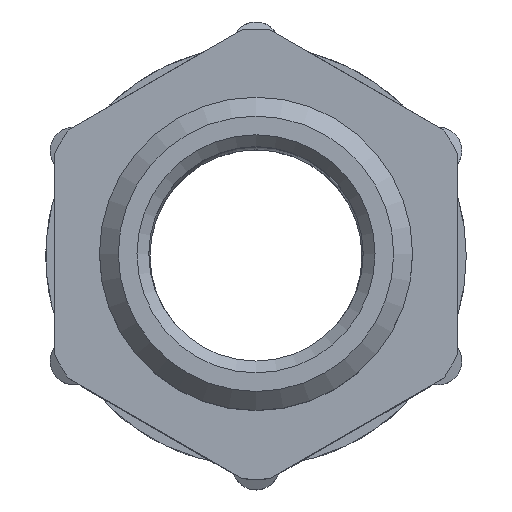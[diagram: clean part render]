
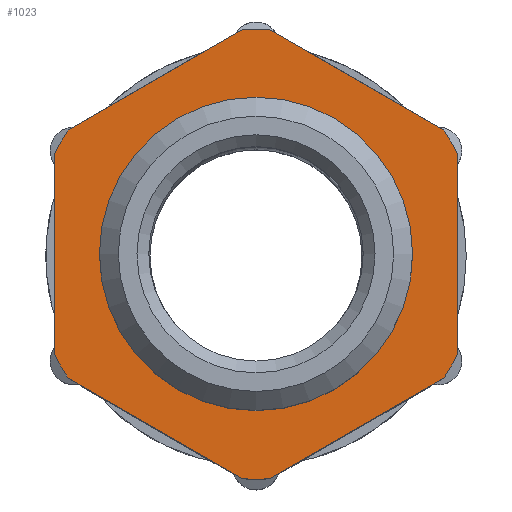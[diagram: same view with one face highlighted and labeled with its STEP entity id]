
A CAD part, top view. The second image highlights one B-rep face of the part: STEP entity #1023.
In plain terms, the highlighted planar face has unit normal (0, 0, 1).
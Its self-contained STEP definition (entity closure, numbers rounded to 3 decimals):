
#48 = EDGE_CURVE ( 'NONE', #171, #171, #2255, .T. ) ;
#171 = VERTEX_POINT ( 'NONE', #3187 ) ;
#174 = CARTESIAN_POINT ( 'NONE',  ( 72.623, 59.517, 83.865 ) ) ;
#189 = ORIENTED_EDGE ( 'NONE', *, *, #3134, .F. ) ;
#204 = ORIENTED_EDGE ( 'NONE', *, *, #4420, .F. ) ;
#280 = CARTESIAN_POINT ( 'NONE',  ( 55.623, 51.032, 83.865 ) ) ;
#355 = VERTEX_POINT ( 'NONE', #3741 ) ;
#370 = CIRCLE ( 'NONE', #2654, 19. ) ;
#377 = CARTESIAN_POINT ( 'NONE',  ( 72.623, 42.547, 83.865 ) ) ;
#384 = DIRECTION ( 'NONE',  ( -0.866, -0.5, 0. ) ) ;
#419 = AXIS2_PLACEMENT_3D ( 'NONE', #4497, #3030, #1965 ) ;
#421 = VECTOR ( 'NONE', #2702, 1000. ) ;
#453 = CARTESIAN_POINT ( 'NONE',  ( 56.775, 69.997, 83.865 ) ) ;
#494 = DIRECTION ( 'NONE',  ( 1., 0., 0. ) ) ;
#506 = AXIS2_PLACEMENT_3D ( 'NONE', #4580, #4527, #2343 ) ;
#545 = DIRECTION ( 'NONE',  ( 0., 0., 1. ) ) ;
#599 = PLANE ( 'NONE',  #1833 ) ;
#600 = ORIENTED_EDGE ( 'NONE', *, *, #48, .F. ) ;
#624 = ORIENTED_EDGE ( 'NONE', *, *, #3411, .F. ) ;
#670 = CARTESIAN_POINT ( 'NONE',  ( 38.623, 59.517, 83.865 ) ) ;
#681 = DIRECTION ( 'NONE',  ( 0.866, -0.5, 0. ) ) ;
#717 = DIRECTION ( 'NONE',  ( 1., 0., 0. ) ) ;
#766 = EDGE_CURVE ( 'NONE', #3561, #4451, #370, .T. ) ;
#877 = DIRECTION ( 'NONE',  ( 0., 0., -1. ) ) ;
#981 = ORIENTED_EDGE ( 'NONE', *, *, #4453, .F. ) ;
#1023 = ADVANCED_FACE ( 'NONE', ( #4716, #1219 ), #599, .F. ) ;
#1034 = ORIENTED_EDGE ( 'NONE', *, *, #766, .F. ) ;
#1036 = VERTEX_POINT ( 'NONE', #3556 ) ;
#1148 = CARTESIAN_POINT ( 'NONE',  ( 38.623, 42.547, 83.865 ) ) ;
#1174 = CARTESIAN_POINT ( 'NONE',  ( 55.623, 51.032, 83.865 ) ) ;
#1191 = CARTESIAN_POINT ( 'NONE',  ( 71.472, 61.512, 83.865 ) ) ;
#1215 = AXIS2_PLACEMENT_3D ( 'NONE', #4411, #3608, #2544 ) ;
#1219 = FACE_BOUND ( 'NONE', #3453, .T. ) ;
#1294 = CARTESIAN_POINT ( 'NONE',  ( 71.472, 40.552, 83.865 ) ) ;
#1335 = CARTESIAN_POINT ( 'NONE',  ( 38.623, 41.217, 83.865 ) ) ;
#1417 = CARTESIAN_POINT ( 'NONE',  ( 72.623, 60.847, 83.865 ) ) ;
#1424 = LINE ( 'NONE', #3964, #3767 ) ;
#1540 = EDGE_CURVE ( 'NONE', #4581, #4526, #3866, .T. ) ;
#1542 = DIRECTION ( 'NONE',  ( 0., 0., -1. ) ) ;
#1550 = EDGE_CURVE ( 'NONE', #4526, #2028, #1424, .T. ) ;
#1563 = CARTESIAN_POINT ( 'NONE',  ( 55.623, 51.032, 83.865 ) ) ;
#1572 = ORIENTED_EDGE ( 'NONE', *, *, #3924, .F. ) ;
#1595 = VERTEX_POINT ( 'NONE', #377 ) ;
#1719 = ORIENTED_EDGE ( 'NONE', *, *, #1540, .F. ) ;
#1733 = AXIS2_PLACEMENT_3D ( 'NONE', #2375, #545, #3869 ) ;
#1804 = VECTOR ( 'NONE', #2473, 1000. ) ;
#1833 = AXIS2_PLACEMENT_3D ( 'NONE', #280, #3605, #2880 ) ;
#1855 = DIRECTION ( 'NONE',  ( 0., 0., -1. ) ) ;
#1923 = EDGE_LOOP ( 'NONE', ( #981, #2048, #2497, #3560, #1719, #1572, #2272, #624, #204, #189, #1034, #2115 ) ) ;
#1965 = DIRECTION ( 'NONE',  ( 1., 0., 0. ) ) ;
#1980 = CARTESIAN_POINT ( 'NONE',  ( 54.472, 32.067, 83.865 ) ) ;
#2024 = CARTESIAN_POINT ( 'NONE',  ( 54.472, 69.997, 83.865 ) ) ;
#2028 = VERTEX_POINT ( 'NONE', #1191 ) ;
#2048 = ORIENTED_EDGE ( 'NONE', *, *, #4760, .F. ) ;
#2115 = ORIENTED_EDGE ( 'NONE', *, *, #4384, .F. ) ;
#2188 = CARTESIAN_POINT ( 'NONE',  ( 55.623, 51.032, 83.865 ) ) ;
#2206 = VECTOR ( 'NONE', #2761, 1000. ) ;
#2255 = CIRCLE ( 'NONE', #1733, 11.5 ) ;
#2272 = ORIENTED_EDGE ( 'NONE', *, *, #2549, .F. ) ;
#2343 = DIRECTION ( 'NONE',  ( 1., 0., 0. ) ) ;
#2375 = CARTESIAN_POINT ( 'NONE',  ( 55.623, 51.032, 83.865 ) ) ;
#2379 = VERTEX_POINT ( 'NONE', #670 ) ;
#2473 = DIRECTION ( 'NONE',  ( 0., -1., 0. ) ) ;
#2488 = CIRCLE ( 'NONE', #3311, 19. ) ;
#2497 = ORIENTED_EDGE ( 'NONE', *, *, #3260, .F. ) ;
#2544 = DIRECTION ( 'NONE',  ( 1., 0., 0. ) ) ;
#2549 = EDGE_CURVE ( 'NONE', #2379, #355, #3464, .T. ) ;
#2654 = AXIS2_PLACEMENT_3D ( 'NONE', #2188, #1855, #717 ) ;
#2676 = VERTEX_POINT ( 'NONE', #1294 ) ;
#2702 = DIRECTION ( 'NONE',  ( -0.866, 0.5, 0. ) ) ;
#2761 = DIRECTION ( 'NONE',  ( 0.866, 0.5, 0. ) ) ;
#2781 = LINE ( 'NONE', #1417, #1804 ) ;
#2799 = CARTESIAN_POINT ( 'NONE',  ( 38.623, 60.847, 83.865 ) ) ;
#2880 = DIRECTION ( 'NONE',  ( 1., 0., 0. ) ) ;
#2986 = VERTEX_POINT ( 'NONE', #1148 ) ;
#3030 = DIRECTION ( 'NONE',  ( 0., 0., -1. ) ) ;
#3031 = CARTESIAN_POINT ( 'NONE',  ( 55.623, 31.402, 83.865 ) ) ;
#3111 = VECTOR ( 'NONE', #384, 1000. ) ;
#3134 = EDGE_CURVE ( 'NONE', #4451, #1036, #3698, .T. ) ;
#3176 = LINE ( 'NONE', #2799, #2206 ) ;
#3187 = CARTESIAN_POINT ( 'NONE',  ( 44.123, 51.032, 83.865 ) ) ;
#3232 = LINE ( 'NONE', #1335, #3296 ) ;
#3233 = VERTEX_POINT ( 'NONE', #174 ) ;
#3251 = CARTESIAN_POINT ( 'NONE',  ( 56.775, 32.067, 83.865 ) ) ;
#3260 = EDGE_CURVE ( 'NONE', #2028, #3233, #3525, .T. ) ;
#3296 = VECTOR ( 'NONE', #4629, 1000. ) ;
#3311 = AXIS2_PLACEMENT_3D ( 'NONE', #1174, #877, #494 ) ;
#3329 = CARTESIAN_POINT ( 'NONE',  ( 72.623, 41.217, 83.865 ) ) ;
#3362 = DIRECTION ( 'NONE',  ( 1., 0., 0. ) ) ;
#3411 = EDGE_CURVE ( 'NONE', #2986, #2379, #3232, .T. ) ;
#3453 = EDGE_LOOP ( 'NONE', ( #600 ) ) ;
#3464 = CIRCLE ( 'NONE', #4304, 19. ) ;
#3525 = CIRCLE ( 'NONE', #506, 19. ) ;
#3556 = CARTESIAN_POINT ( 'NONE',  ( 39.775, 40.552, 83.865 ) ) ;
#3560 = ORIENTED_EDGE ( 'NONE', *, *, #1550, .F. ) ;
#3561 = VERTEX_POINT ( 'NONE', #3251 ) ;
#3605 = DIRECTION ( 'NONE',  ( 0., 0., -1. ) ) ;
#3608 = DIRECTION ( 'NONE',  ( 0., 0., -1. ) ) ;
#3698 = LINE ( 'NONE', #3031, #421 ) ;
#3741 = CARTESIAN_POINT ( 'NONE',  ( 39.775, 61.512, 83.865 ) ) ;
#3767 = VECTOR ( 'NONE', #681, 1000. ) ;
#3866 = CIRCLE ( 'NONE', #1215, 19. ) ;
#3869 = DIRECTION ( 'NONE',  ( -1., 0., 0. ) ) ;
#3924 = EDGE_CURVE ( 'NONE', #355, #4581, #3176, .T. ) ;
#3964 = CARTESIAN_POINT ( 'NONE',  ( 55.623, 70.662, 83.865 ) ) ;
#4018 = LINE ( 'NONE', #3329, #3111 ) ;
#4304 = AXIS2_PLACEMENT_3D ( 'NONE', #1563, #1542, #3362 ) ;
#4384 = EDGE_CURVE ( 'NONE', #2676, #3561, #4018, .T. ) ;
#4411 = CARTESIAN_POINT ( 'NONE',  ( 55.623, 51.032, 83.865 ) ) ;
#4420 = EDGE_CURVE ( 'NONE', #1036, #2986, #2488, .T. ) ;
#4451 = VERTEX_POINT ( 'NONE', #1980 ) ;
#4453 = EDGE_CURVE ( 'NONE', #1595, #2676, #4479, .T. ) ;
#4479 = CIRCLE ( 'NONE', #419, 19. ) ;
#4497 = CARTESIAN_POINT ( 'NONE',  ( 55.623, 51.032, 83.865 ) ) ;
#4526 = VERTEX_POINT ( 'NONE', #453 ) ;
#4527 = DIRECTION ( 'NONE',  ( 0., 0., -1. ) ) ;
#4580 = CARTESIAN_POINT ( 'NONE',  ( 55.623, 51.032, 83.865 ) ) ;
#4581 = VERTEX_POINT ( 'NONE', #2024 ) ;
#4629 = DIRECTION ( 'NONE',  ( 0., 1., 0. ) ) ;
#4716 = FACE_OUTER_BOUND ( 'NONE', #1923, .T. ) ;
#4760 = EDGE_CURVE ( 'NONE', #3233, #1595, #2781, .T. ) ;
